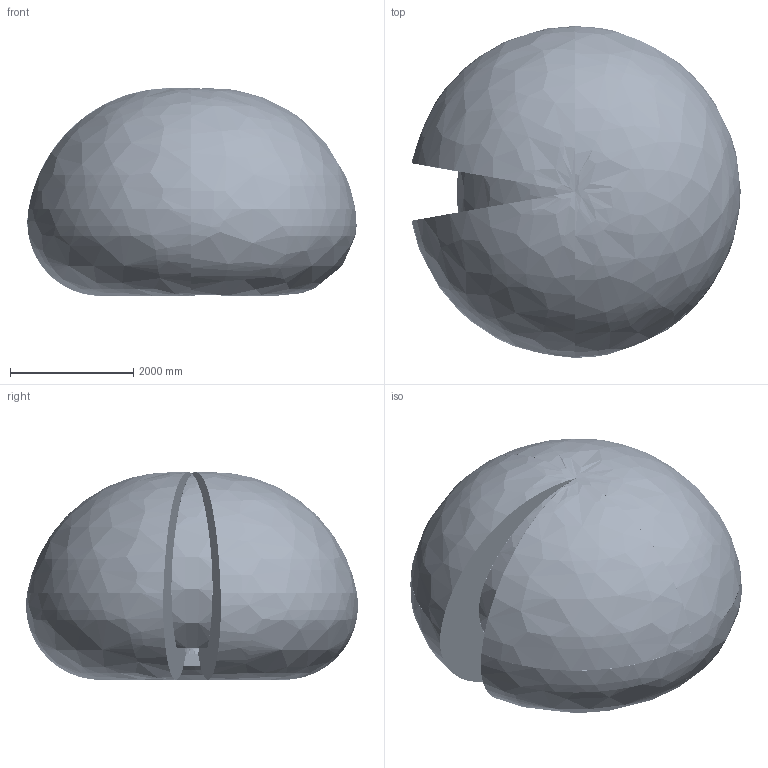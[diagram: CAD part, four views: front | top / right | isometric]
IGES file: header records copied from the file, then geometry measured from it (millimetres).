
Start section: SolidWorks IGES file using analytic representation for surfaces
Global section: file name: C:\DATA\SAP_DOC\LW\IRB 6730\IRB6730-MH3_270kg-270_OC_01_SW_J\Export\IRB6730-MH3_270kg-270_OC_01_IGES_J\IRB6730-MH3_270kg-270_OC_01_ASM_CAD.igs; native system: SolidWorks 2024; preprocessor: SolidWorks 2024; author: SEJOVAS3; date: 260526.114038; units: millimetre
Bounding box: 5339.91 x 5383.04 x 3365.41 mm (x, y, z)
Surface area: 104923824.1 mm2 (no closed solid volume)
Topology: 0 solids, 0 shells, 9370 faces, 143478 edges, 143332 vertices
Faces by surface type: bspline 5522, revolution 3848
